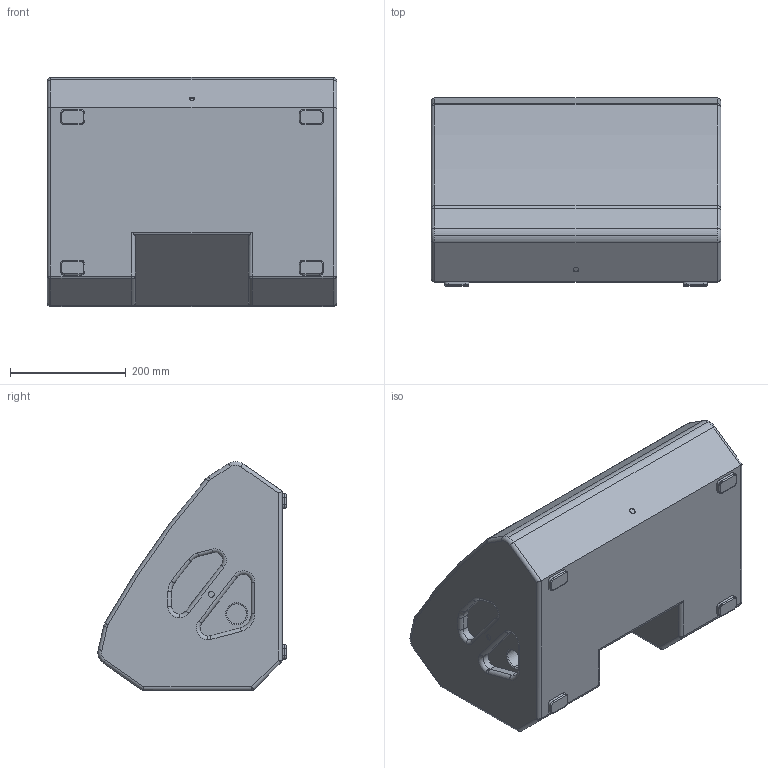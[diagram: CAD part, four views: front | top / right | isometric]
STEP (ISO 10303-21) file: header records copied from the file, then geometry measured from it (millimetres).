
FILE_DESCRIPTION (( 'STEP AP214' ), '1' );
FILE_NAME ('MFX-12MC 3D CAD.STEP', '2019-09-23T15:41:31', ( '' ), ( '' ), 'SwSTEP 2.0', 'SolidWorks 2018', '' );
FILE_SCHEMA (( 'AUTOMOTIVE_DESIGN' ));
Length unit declared in the file: millimetre
Products named in the file (2): MFX-12MC 3D CAD
Bounding box: 500 x 324.9 x 395.47 mm (x, y, z)
Volume: 43569564.7 mm3; surface area: 812462.2 mm2
Topology: 1 solids, 1 shells, 221 faces, 509 edges, 300 vertices
Faces by surface type: cylinder 108, plane 55, torus 50, sphere 8
Entity records: 6256 total; most frequent: DIRECTION 1207, CARTESIAN_POINT 1064, ORIENTED_EDGE 1010, EDGE_CURVE 505, AXIS2_PLACEMENT_3D 491, VERTEX_POINT 300, CIRCLE 268, EDGE_LOOP 235
